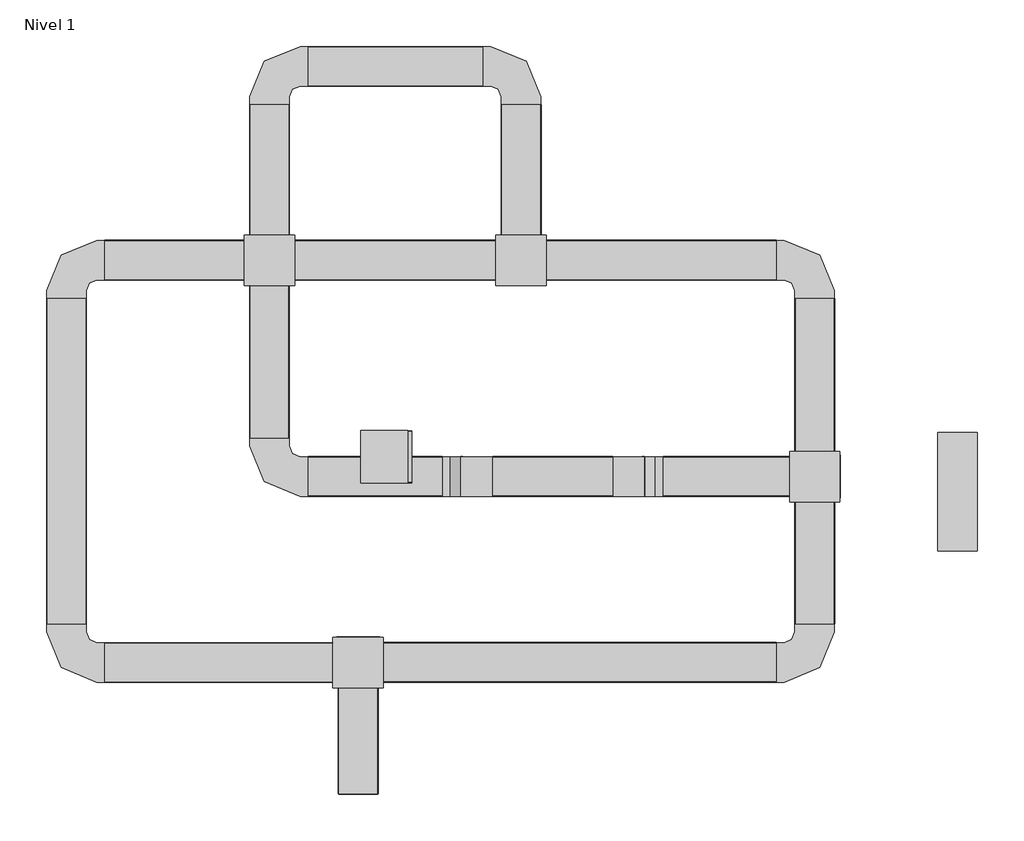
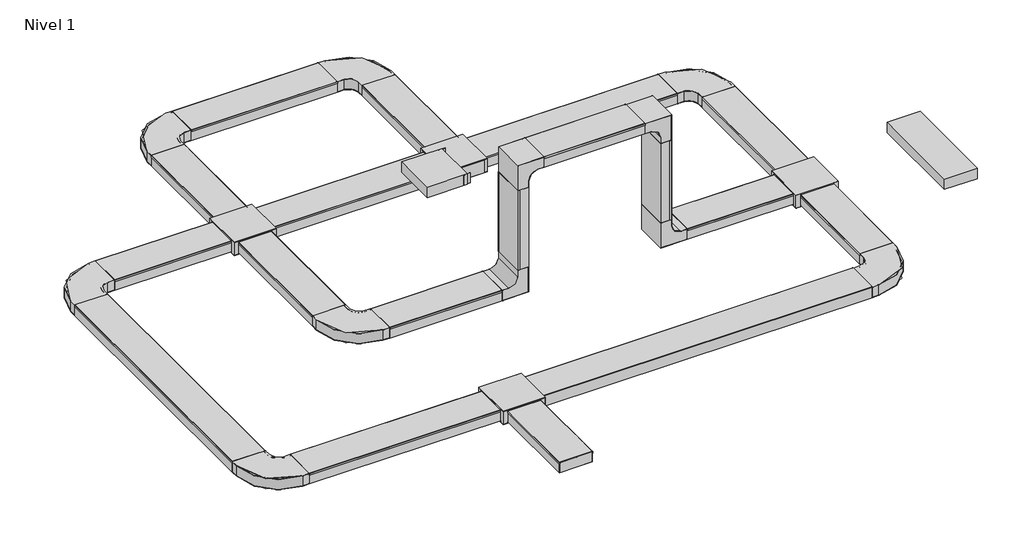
# One storey: 20 cable carrier segments, 19 proxies, 17 cable carrier fittings.
"""IFC4 building model written with IfcOpenShell, lengths in millimetres."""

from ifc_helpers import new_model, si_unit, frame, origin, place, context, project, spatial, polyline, outline, extrude, transform, mapped, element, save
from components import generic_models_5cec7ab9, generic_models_def1f499, generic_models_9c656804, generic_models_31582465, generic_models_76276167, generic_models_f54289ea, generic_models_f6557bd0, generic_models_8f2ca061, generic_models_216e3be9, generic_models_42cd256a, generic_models_762c7957, generic_models_3b93f0a4, generic_models_4485c74d, generic_models_1e959e51, generic_models_a58146f8, generic_models_6fad3b39, cable_carrier_fitting_90eee520, cable_carrier_fitting_2af98f5a, cable_carrier_fitting_345d411a, cable_carrier_fitting_2ed938b1, cable_carrier_fitting_19ecf4e0, cable_carrier_fitting_0468ddaf

model = new_model("IFC4")

# Units and contexts
model_context = context("Model", 3, world=origin())
ifc_project = project(units=[si_unit("LENGTHUNIT", "METRE", prefix="MILLI")], contexts=[model_context])

# Site, building, storey
site = spatial("IfcSite", under=ifc_project)
building = spatial("IfcBuilding", under=site)
storey = spatial("IfcBuildingStorey", under=building, Name="Nivel 1", Elevation=0.0)

# Proxies
placement = place(None, origin())
generic_models_shape = generic_models_5cec7ab9(model_context)
element("IfcBuildingElementProxy", 1, Name="Cable_Tray_FinalCover_TFCT_Basorcanal : Basorcanal TFCT 100X300", ObjectType="Cable_Tray_FinalCover_TFCT_Basorcanal : Basorcanal TFCT 100X300", at=placement, inside=storey, context=model_context, shape_type="MappedRepresentation", body=[
    mapped(generic_models_shape, transform((-9827.2766026, -3718.5763721, -198.6), x_axis=(1.0, 0.0, 0.0), y_axis=(0.0, 4.444959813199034e-05, 0.9999999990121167), z_axis=(0.0, -0.9999999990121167, 4.444959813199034e-05))),
])
generic_models_2_shape = generic_models_def1f499(model_context)
element("IfcBuildingElementProxy", 2, Name="Cable_Tray_Cover_CT_Basorcanal : Basorcanal CT 100X300 (cover)", ObjectType="Cable_Tray_Cover_CT_Basorcanal : Basorcanal CT 100X300 (cover)", at=placement, inside=storey, context=model_context, shape_type="MappedRepresentation", body=[
    mapped(generic_models_2_shape, transform((-6650.7974985, 340.5914272, -148.6017721), x_axis=(0.0, 1.0, 0.0), y_axis=(-0.9999999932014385, 0.0, 0.00011660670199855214), z_axis=(0.00011660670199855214, 0.0, 0.9999999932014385))),
])
generic_models_3_shape = generic_models_9c656804(model_context)
element("IfcBuildingElementProxy", 3, Name="Cable_Tray_Cover_CT_Basorcanal : Basorcanal CT 100X300 (cover)", ObjectType="Cable_Tray_Cover_CT_Basorcanal : Basorcanal CT 100X300 (cover)", at=placement, inside=storey, context=model_context, shape_type="MappedRepresentation", body=[
    mapped(generic_models_3_shape, transform((-8588.3511729, 532.0870332, -148.4117426), x_axis=(1.0, 0.0, 0.0), y_axis=(0.0, 0.9999999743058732, -0.0002266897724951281), z_axis=(0.0, 0.0002266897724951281, 0.9999999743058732))),
])
element("IfcBuildingElementProxy", 4, Name="Cable_Tray_Cover_CT_Basorcanal : Basorcanal CT 100X300 (cover)", ObjectType="Cable_Tray_Cover_CT_Basorcanal : Basorcanal CT 100X300 (cover)", at=placement, inside=storey, context=model_context, shape_type="MappedRepresentation", body=[
    mapped(generic_models_3_shape, transform((-10500.8906627, 532.080158, -148.5473097), x_axis=(1.0, 0.0, 0.0), y_axis=(0.0, 0.9999999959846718, -8.961393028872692e-05), z_axis=(0.0, 8.961393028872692e-05, 0.9999999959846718))),
])
generic_models_4_shape = generic_models_31582465(model_context)
element("IfcBuildingElementProxy", 5, Name="Cable_Tray_Cover_CT_Basorcanal : Basorcanal CT 100X300 (cover)", ObjectType="Cable_Tray_Cover_CT_Basorcanal : Basorcanal CT 100X300 (cover)", at=placement, inside=storey, context=model_context, shape_type="MappedRepresentation", body=[
    mapped(generic_models_4_shape, transform((-8880.3511729, 1814.0756733, -148.6359375), x_axis=(0.0, 1.0, 0.0), y_axis=(-1.0, 0.0, 0.0), z_axis=(0.0, 0.0, 1.0))),
])
generic_models_5_shape = generic_models_76276167(model_context)
element("IfcBuildingElementProxy", 6, Name="Cable_Tray_Cover_CT_Basorcanal : Basorcanal CT 100X300 (cover)", ObjectType="Cable_Tray_Cover_CT_Basorcanal : Basorcanal CT 100X300 (cover)", at=placement, inside=storey, context=model_context, shape_type="MappedRepresentation", body=[
    mapped(generic_models_5_shape, transform((-8779.8547165, 340.5914272, -148.425319), x_axis=(0.0, 1.0, 0.0), y_axis=(-0.9999999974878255, 0.0, -7.088264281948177e-05), z_axis=(-7.088264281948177e-05, 0.0, 0.9999999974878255))),
])
generic_models_6_shape = generic_models_f54289ea(model_context)
element("IfcBuildingElementProxy", 7, Name="Cable_Tray_Cover_CT_Basorcanal : Basorcanal CT 100X300 (cover)", ObjectType="Cable_Tray_Cover_CT_Basorcanal : Basorcanal CT 100X300 (cover)", at=placement, inside=storey, context=model_context, shape_type="MappedRepresentation", body=[
    mapped(generic_models_6_shape, transform((-10501.8906627, -1011.6123872, -148.6359353), x_axis=(1.0, 0.0, 0.0), y_axis=(0.0, 0.9999999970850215, 7.635415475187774e-05), z_axis=(0.0, -7.635415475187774e-05, 0.9999999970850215))),
])
element("IfcBuildingElementProxy", 8, Name="Cable_Tray_Cover_CT_Basorcanal : Basorcanal CT 100X300 (cover)", ObjectType="Cable_Tray_Cover_CT_Basorcanal : Basorcanal CT 100X300 (cover)", at=placement, inside=storey, context=model_context, shape_type="MappedRepresentation", body=[
    mapped(generic_models_6_shape, transform((-6357.8033308, 47.5914272, -148.6359375), x_axis=(-1.0, 0.0, 0.0), y_axis=(0.0, -1.0, 0.0), z_axis=(0.0, 0.0, 1.0))),
])
generic_models_7_shape = generic_models_f6557bd0(model_context)
element("IfcBuildingElementProxy", 9, Name="Cable_Tray_Cover_CT_Basorcanal : Basorcanal CT 100X300 (cover)", ObjectType="Cable_Tray_Cover_CT_Basorcanal : Basorcanal CT 100X300 (cover)", at=placement, inside=storey, context=model_context, shape_type="MappedRepresentation", body=[
    mapped(generic_models_7_shape, transform((-6549.3033308, -1304.6412884, -148.6359375), x_axis=(0.0, 1.0, 0.0), y_axis=(-1.0, 0.0, 0.0), z_axis=(0.0, 0.0, 1.0))),
])
generic_models_8_shape = generic_models_8f2ca061(model_context)
element("IfcBuildingElementProxy", 10, Name="Cable_Tray_Cover_CT_Basorcanal : Basorcanal CT 100X300 (cover)", ObjectType="Cable_Tray_Cover_CT_Basorcanal : Basorcanal CT 100X300 (cover)", at=placement, inside=storey, context=model_context, shape_type="MappedRepresentation", body=[
    mapped(generic_models_8_shape, transform((-10207.8906627, -1304.6412884, -148.6359375), x_axis=(0.0, -1.0, 0.0), y_axis=(1.0, 0.0, 0.0), z_axis=(0.0, 0.0, 1.0))),
])
generic_models_9_shape = generic_models_216e3be9(model_context)
element("IfcBuildingElementProxy", 11, Name="Cable_Tray_Cover_CT_Basorcanal : Basorcanal CT 100X300 (cover)", ObjectType="Cable_Tray_Cover_CT_Basorcanal : Basorcanal CT 100X300 (cover)", at=placement, inside=storey, context=model_context, shape_type="MappedRepresentation", body=[
    mapped(generic_models_9_shape, transform((-12044.2216592, 47.5914272, -148.6359375), x_axis=(-1.0, 0.0, 0.0), y_axis=(0.0, -1.0, 0.0), z_axis=(0.0, 0.0, 1.0))),
])
generic_models_10_shape = generic_models_42cd256a(model_context)
element("IfcBuildingElementProxy", 12, Name="Cable_Tray_Cover_CT_Basorcanal : Basorcanal CT 100X300 (cover)", ObjectType="Cable_Tray_Cover_CT_Basorcanal : Basorcanal CT 100X300 (cover)", at=placement, inside=storey, context=model_context, shape_type="MappedRepresentation", body=[
    mapped(generic_models_10_shape, transform((-9635.8033308, -2717.5763721, -148.6359375), x_axis=(0.0, -1.0, 0.0), y_axis=(1.0, 0.0, 0.0), z_axis=(0.0, 0.0, 1.0))),
])
generic_models_11_shape = generic_models_762c7957(model_context)
element("IfcBuildingElementProxy", 13, Name="Cable_Tray_Cover_CT_Basorcanal : Basorcanal CT 100X300 (cover)", ObjectType="Cable_Tray_Cover_CT_Basorcanal : Basorcanal CT 100X300 (cover)", at=placement, inside=storey, context=model_context, shape_type="MappedRepresentation", body=[
    mapped(generic_models_11_shape, transform((-11751.2216592, -2718.5763721, -148.6359375), x_axis=(0.0, -1.0, 0.0), y_axis=(1.0, 0.0, 0.0), z_axis=(0.0, 0.0, 1.0))),
])
generic_models_12_shape = generic_models_3b93f0a4(model_context)
element("IfcBuildingElementProxy", 14, Name="Cable_Tray_Cover_CT_Basorcanal : Basorcanal CT 100X300 (cover)", ObjectType="Cable_Tray_Cover_CT_Basorcanal : Basorcanal CT 100X300 (cover)", at=placement, inside=storey, context=model_context, shape_type="MappedRepresentation", body=[
    mapped(generic_models_12_shape, transform((-9827.2766029, -3718.5741489, -148.6000001), x_axis=(1.0, 0.0, 0.0), y_axis=(0.0, 0.9999999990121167, -4.444959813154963e-05), z_axis=(0.0, 4.444959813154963e-05, 0.9999999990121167))),
])
generic_models_13_shape = generic_models_4485c74d(model_context)
element("IfcBuildingElementProxy", 15, Name="Cable_Tray_Cover_CT_Basorcanal : Basorcanal CT 100X300 (cover)", ObjectType="Cable_Tray_Cover_CT_Basorcanal : Basorcanal CT 100X300 (cover)", at=placement, inside=storey, context=model_context, shape_type="MappedRepresentation", body=[
    mapped(generic_models_13_shape, transform((-10692.425206, 340.5914272, -148.5608871), x_axis=(0.0, 1.0, 0.0), y_axis=(-0.9999999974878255, 0.0, -7.088264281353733e-05), z_axis=(-7.088264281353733e-05, 0.0, 0.9999999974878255))),
])
generic_models_14_shape = generic_models_1e959e51(model_context)
element("IfcBuildingElementProxy", 16, Name="Cable_Tray_Cover_CT_Basorcanal : Basorcanal CT 100X300 (cover)", ObjectType="Cable_Tray_Cover_CT_Basorcanal : Basorcanal CT 100X300 (cover)", at=placement, inside=storey, context=model_context, shape_type="MappedRepresentation", body=[
    mapped(generic_models_14_shape, transform((-6357.8033308, -1496.1412884, -148.6359375), x_axis=(-1.0, 0.0, 0.0), y_axis=(0.0, -1.0, 0.0), z_axis=(0.0, 0.0, 1.0))),
])
generic_models_15_shape = generic_models_a58146f8(model_context)
element("IfcBuildingElementProxy", 17, Name="Cable_Tray_Cover_CT_Basorcanal : Basorcanal CT 100X300 (cover)", ObjectType="Cable_Tray_Cover_CT_Basorcanal : Basorcanal CT 100X300 (cover)", at=placement, inside=storey, context=model_context, shape_type="MappedRepresentation", body=[
    mapped(generic_models_15_shape, transform((-7652.064673, -1304.6412884, 754.5079781), x_axis=(0.0, -1.0, 0.0), y_axis=(0.0, 0.0, -1.0), z_axis=(1.0, 0.0, 0.0))),
])
element("IfcBuildingElementProxy", 18, Name="Cable_Tray_Cover_CT_Basorcanal : Basorcanal CT 100X300 (cover)", ObjectType="Cable_Tray_Cover_CT_Basorcanal : Basorcanal CT 100X300 (cover)", at=placement, inside=storey, context=model_context, shape_type="MappedRepresentation", body=[
    mapped(generic_models_15_shape, transform((-9047.464673, -1304.6412884, 754.5079781), x_axis=(0.0, 1.0, 0.0), y_axis=(0.0, 0.0, -1.0), z_axis=(-1.0, 0.0, 0.0))),
])
generic_models_16_shape = generic_models_6fad3b39(model_context)
element("IfcBuildingElementProxy", 19, Name="Cable_Tray_Cover_CT_Basorcanal : Basorcanal CT 100X300 (cover)", ObjectType="Cable_Tray_Cover_CT_Basorcanal : Basorcanal CT 100X300 (cover)", at=placement, inside=storey, context=model_context, shape_type="MappedRepresentation", body=[
    mapped(generic_models_16_shape, transform((-8805.464673, -1304.6412884, 996.5079781), x_axis=(0.0, -1.0, 0.0), y_axis=(1.0, 0.0, 0.0), z_axis=(0.0, 0.0, 1.0))),
])

# Cable carrier fittings
cable_carrier_fitting_shape = cable_carrier_fitting_90eee520(model_context)
element("IfcCableCarrierFitting", 20, ObjectType="CPT_Horizontal Bend_Basorcanal : Basorcanal CPT", at=placement, inside=storey, context=model_context, shape_type="MappedRepresentation", body=[
    mapped(cable_carrier_fitting_shape, transform((-8588.3511729, 1814.0756733, -198.6359375), x_axis=(0.0, 1.0, 0.0), y_axis=(-1.0, 0.0, 0.0), z_axis=(0.0, 0.0, 1.0))),
])
element("IfcCableCarrierFitting", 21, ObjectType="CPT_Horizontal Bend_Basorcanal : Basorcanal CPT", at=placement, inside=storey, context=model_context, shape_type="MappedRepresentation", body=[
    mapped(cable_carrier_fitting_shape, transform((-12044.2216592, -2718.5763721, -198.6359375), x_axis=(0.0, -1.0, 0.0), y_axis=(1.0, 0.0, 0.0), z_axis=(0.0, 0.0, 1.0))),
])
element("IfcCableCarrierFitting", 22, ObjectType="CPT_Horizontal Bend_Basorcanal : Basorcanal CPT", at=placement, inside=storey, context=model_context, shape_type="MappedRepresentation", body=[
    mapped(cable_carrier_fitting_shape, transform((-12044.2216592, 340.5914272, -198.6359375), x_axis=(-1.0, 0.0, 0.0), y_axis=(0.0, -1.0, 0.0), z_axis=(0.0, 0.0, 1.0))),
])
element("IfcCableCarrierFitting", 23, ObjectType="CPT_Horizontal Bend_Basorcanal : Basorcanal CPT", at=placement, inside=storey, context=model_context, shape_type="MappedRepresentation", body=[
    mapped(cable_carrier_fitting_shape, transform((-10500.8906627, 1814.0756733, -198.6359375), x_axis=(-1.0, 0.0, 0.0), y_axis=(0.0, -1.0, 0.0), z_axis=(0.0, 0.0, 1.0))),
])
element("IfcCableCarrierFitting", 24, ObjectType="CPT_Horizontal Bend_Basorcanal : Basorcanal CPT", at=placement, inside=storey, context=model_context, shape_type="MappedRepresentation", body=[
    mapped(cable_carrier_fitting_shape, transform((-10500.8906627, -1304.6412884, -198.6359375), x_axis=(0.0, -1.0, 0.0), y_axis=(1.0, 0.0, 0.0), z_axis=(0.0, 0.0, 1.0))),
])
element("IfcCableCarrierFitting", 25, ObjectType="CPT_Horizontal Bend_Basorcanal : Basorcanal CPT", at=placement, inside=storey, context=model_context, shape_type="MappedRepresentation", body=[
    mapped(cable_carrier_fitting_shape, transform((-6357.8033308, -2718.5763721, -198.6359375), x_axis=(1.0, 0.0, 0.0), y_axis=(0.0, 1.0, 0.0), z_axis=(0.0, 0.0, 1.0))),
])
element("IfcCableCarrierFitting", 26, ObjectType="CPT_Horizontal Bend_Basorcanal : Basorcanal CPT", at=placement, inside=storey, context=model_context, shape_type="MappedRepresentation", body=[
    mapped(cable_carrier_fitting_shape, transform((-6357.8033308, 340.5914272, -198.6359375), x_axis=(0.0, 1.0, 0.0), y_axis=(-0.9999999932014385, 0.0, 0.00011660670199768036), z_axis=(0.00011660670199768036, 0.0, 0.9999999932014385))),
])
cable_carrier_fitting_2_shape = cable_carrier_fitting_2af98f5a(model_context)
element("IfcCableCarrierFitting", 27, ObjectType="CCCT_Vertical_Bend-Basorcanal : Basorcanal CCCT", at=placement, inside=storey, context=model_context, shape_type="MappedRepresentation", body=[
    mapped(cable_carrier_fitting_2_shape, transform((-7702.064673, -1304.6412884, -198.6359375), x_axis=(0.0, 0.0, -1.0), y_axis=(1.0, 0.0, 0.0), z_axis=(0.0, -1.0, 0.0))),
])
element("IfcCableCarrierFitting", 28, ObjectType="CCCT_Vertical_Bend-Basorcanal : Basorcanal CCCT", at=placement, inside=storey, context=model_context, shape_type="MappedRepresentation", body=[
    mapped(cable_carrier_fitting_2_shape, transform((-8997.464673, -1304.6412884, -198.6359375), x_axis=(1.0, 0.0, 0.0), y_axis=(0.0, 0.0, 1.0), z_axis=(0.0, -1.0, 0.0))),
])
element("IfcCableCarrierFitting", 29, ObjectType="CCCT_Vertical_Bend-Basorcanal : Basorcanal CCCT", at=placement, inside=storey, context=model_context, shape_type="MappedRepresentation", body=[
    mapped(cable_carrier_fitting_2_shape, transform((-7702.064673, -1304.6412884, 946.5079781), x_axis=(0.0, 0.0, 1.0), y_axis=(-1.0, 0.0, 0.0), z_axis=(0.0, -1.0, 0.0))),
])
element("IfcCableCarrierFitting", 30, ObjectType="CCCT_Vertical_Bend-Basorcanal : Basorcanal CCCT", at=placement, inside=storey, context=model_context, shape_type="MappedRepresentation", body=[
    mapped(cable_carrier_fitting_2_shape, transform((-8997.464673, -1304.6412884, 946.5079781), x_axis=(0.0, 0.0, 1.0), y_axis=(1.0, 0.0, 0.0), z_axis=(0.0, 1.0, 0.0))),
])
cable_carrier_fitting_3_shape = cable_carrier_fitting_345d411a(model_context)
element("IfcCableCarrierFitting", 31, ObjectType="JUCT_Juction-Basorcanal : Basorcanal JUCT H100", at=placement, inside=storey, context=model_context, shape_type="MappedRepresentation", body=[
    mapped(cable_carrier_fitting_3_shape, transform((-8775.864673, -1304.6412884, 946.5079781), x_axis=(-1.0, 0.0, 0.0), y_axis=(0.0, -1.0, 0.0), z_axis=(0.0, 0.0, 1.0))),
])
cable_carrier_fitting_4_shape = cable_carrier_fitting_2ed938b1(model_context)
element("IfcCableCarrierFitting", 32, ObjectType="CDT_TE_Box Derivation_Basorcanal : Basorcanal CDT", at=placement, inside=storey, context=model_context, shape_type="MappedRepresentation", body=[
    mapped(cable_carrier_fitting_4_shape, transform((-8588.3511729, 340.5914272, -198.4117449), x_axis=(-0.9999999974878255, 0.0, -7.088264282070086e-05), y_axis=(0.0, -1.0000000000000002, 0.0), z_axis=(-7.088264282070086e-05, 0.0, 0.9999999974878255))),
])
element("IfcCableCarrierFitting", 33, ObjectType="CDT_TE_Box Derivation_Basorcanal : Basorcanal CDT", at=placement, inside=storey, context=model_context, shape_type="MappedRepresentation", body=[
    mapped(cable_carrier_fitting_4_shape, transform((-6357.8033308, -1304.6412884, -198.6359375), x_axis=(0.0, -1.0, 0.0), y_axis=(1.0, 0.0, 0.0), z_axis=(0.0, 0.0, 1.0))),
])
element("IfcCableCarrierFitting", 34, ObjectType="CDT_TE_Box Derivation_Basorcanal : Basorcanal CDT", at=placement, inside=storey, context=model_context, shape_type="MappedRepresentation", body=[
    mapped(cable_carrier_fitting_4_shape, transform((-9827.2766027, -2718.5763721, -198.6359375), x_axis=(1.0, 0.0, 0.0), y_axis=(0.0, 1.0, 0.0), z_axis=(0.0, 0.0, 1.0))),
])
cable_carrier_fitting_5_shape = cable_carrier_fitting_19ecf4e0(model_context)
element("IfcCableCarrierFitting", 35, ObjectType="CDT_CR_Box Derivation_Basorcanal : Basorcanal CDT", at=placement, inside=storey, context=model_context, shape_type="MappedRepresentation", body=[
    mapped(cable_carrier_fitting_5_shape, transform((-10500.8906627, 340.5914272, -198.5473107), x_axis=(0.9999999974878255, 0.0, 7.088264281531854e-05), y_axis=(0.0, 1.0000000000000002, 0.0), z_axis=(-7.088264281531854e-05, 0.0, 0.9999999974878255))),
])
cable_carrier_fitting_6_shape = cable_carrier_fitting_0468ddaf(model_context)
element("IfcCableCarrierFitting", 36, ObjectType="JUCT_Juction-Basorcanal : Basorcanal JUCT H100", at=placement, inside=storey, context=model_context, shape_type="MappedRepresentation", body=[
    mapped(cable_carrier_fitting_6_shape, transform((-9418.3794731, -1154.6412884, 946.5079781), x_axis=(-1.0, 0.0, 0.0), y_axis=(0.0, -1.0, 0.0), z_axis=(0.0, 0.0, 1.0))),
])

# Cable carrier segments
element("IfcCableCarrierSegment", 37, ObjectType="Basorcanal CT", at=placement, inside=storey, context=model_context, shape_type="SweptSolid", body=[
    extrude(outline(polyline([(-11894.2216592, -2425.5763721), (-12194.2216592, -2425.5763721), (-12194.2216592, 47.5914272), (-11894.2216592, 47.5914272), (-11894.2216592, -2425.5763721)])), frame((0.0, 0.0, -248.6359375), z_axis=(0.0, 0.0, 1.0), x_axis=(1.0, 0.0, 0.0)), (0.0, 0.0, 1.0), 100.0),
])
element("IfcCableCarrierSegment", 38, ObjectType="Basorcanal CT", at=placement, inside=storey, context=model_context, shape_type="SweptSolid", body=[
    extrude(outline(polyline([(-6207.8033308, -1113.1412884), (-6507.8033308, -1113.1412884), (-6507.8033308, 47.5914272), (-6207.8033308, 47.5914272), (-6207.8033308, -1113.1412884)])), frame((0.0, 0.0, -248.6359375), z_axis=(0.0, 0.0, 1.0), x_axis=(1.0, 0.0, 0.0)), (0.0, 0.0, 1.0), 100.0),
])
element("IfcCableCarrierSegment", 39, ObjectType="Basorcanal CT", at=placement, inside=storey, context=model_context, shape_type="SweptSolid", body=[
    extrude(outline(polyline([(0.0, -299.9999991), (0.0, 0.0), (1160.732719, 0.0), (1160.732719, -299.9999991), (0.0, -299.9999991)])), frame((-10350.8906632, 149.0952449, -248.5473104), z_axis=(0.0, -7.635415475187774e-05, 0.9999999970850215), x_axis=(0.0, -0.9999999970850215, -7.635415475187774e-05)), (0.0, 0.0, 1.0), 99.9999997),
])
element("IfcCableCarrierSegment", 40, ObjectType="Basorcanal CT", at=placement, inside=storey, context=model_context, shape_type="SweptSolid", body=[
    extrude(outline(polyline([(-10207.8906627, 1664.0756733), (-10207.8906627, 1964.0756733), (-8881.3511729, 1964.0756733), (-8881.3511729, 1664.0756733), (-10207.8906627, 1664.0756733)])), frame((0.0, 0.0, -248.6359375), z_axis=(0.0, 0.0, 1.0), x_axis=(1.0, 0.0, 0.0)), (0.0, 0.0, 1.0), 100.0),
])
element("IfcCableCarrierSegment", 41, ObjectType="Basorcanal CT", at=placement, inside=storey, context=model_context, shape_type="SweptSolid", body=[
    extrude(outline(polyline([(0.0, -300.0), (0.0, 0.0), (988.9842715, 0.0), (988.9842715, -300.0), (0.0, -300.0)])), frame((-8438.3511729, 1521.0643388, -248.6359362), z_axis=(0.0, 0.00022668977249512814, 0.9999999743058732), x_axis=(0.0, -0.9999999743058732, 0.00022668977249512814)), (0.0, 0.0, 1.0), 100.0),
])
element("IfcCableCarrierSegment", 42, ObjectType="Basorcanal CT", at=placement, inside=storey, context=model_context, shape_type="SweptSolid", body=[
    extrude(outline(polyline([(-8947.464673, -1454.6412884), (-9047.464673, -1454.6412884), (-9047.464673, -1154.6412884), (-8947.464673, -1154.6412884), (-8947.464673, -1454.6412884)])), frame((0.0, 0.0, -6.6359375), z_axis=(0.0, 0.0, 1.0), x_axis=(1.0, 0.0, 0.0)), (0.0, 0.0, 1.0), 761.1439156),
])
element("IfcCableCarrierSegment", 43, ObjectType="Basorcanal CT", at=placement, inside=storey, context=model_context, shape_type="SweptSolid", body=[
    extrude(outline(polyline([(-7510.064673, -1454.6412884), (-7510.064673, -1154.6412884), (-6549.3033308, -1154.6412884), (-6549.3033308, -1454.6412884), (-7510.064673, -1454.6412884)])), frame((0.0, 0.0, -248.6359375), z_axis=(0.0, 0.0, 1.0), x_axis=(1.0, 0.0, 0.0)), (0.0, 0.0, 1.0), 100.0),
])
element("IfcCableCarrierSegment", 44, ObjectType="Basorcanal CT", at=placement, inside=storey, context=model_context, shape_type="SweptSolid", body=[
    extrude(outline(polyline([(-10018.7766027, -2568.5763721), (-10018.7766027, -2868.5763721), (-11751.2216592, -2868.5763721), (-11751.2216592, -2568.5763721), (-10018.7766027, -2568.5763721)])), frame((0.0, 0.0, -248.6359375), z_axis=(0.0, 0.0, 1.0), x_axis=(1.0, 0.0, 0.0)), (0.0, 0.0, 1.0), 100.0),
])
element("IfcCableCarrierSegment", 45, ObjectType="Basorcanal CT", at=placement, inside=storey, context=model_context, shape_type="SweptSolid", body=[
    extrude(outline(polyline([(0.0, -300.0), (0.0, 0.0), (1746.0478564, 0.0), (1746.0478564, -300.0), (0.0, -300.0)])), frame((-8396.8570037, 490.5914272, -248.3981705), z_axis=(0.00011660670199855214, 0.0, 0.9999999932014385), x_axis=(0.9999999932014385, 0.0, -0.00011660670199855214)), (0.0, 0.0, 1.0), 100.0),
])
element("IfcCableCarrierSegment", 46, ObjectType="Basorcanal CT", at=placement, inside=storey, context=model_context, shape_type="SweptSolid", body=[
    extrude(outline(polyline([(0.0, -300.0), (0.0, 0.0), (1058.8309997, 0.0), (1058.8309997, -300.0), (0.0, -300.0)])), frame((-11751.2181151, 490.5914272, -248.6359374), z_axis=(-7.088264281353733e-05, 0.0, 0.9999999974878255), x_axis=(0.9999999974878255, 0.0, 7.088264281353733e-05)), (0.0, 0.0, 1.0), 100.0),
])
element("IfcCableCarrierSegment", 47, ObjectType="Basorcanal CT", at=placement, inside=storey, context=model_context, shape_type="SweptSolid", body=[
    extrude(outline(polyline([(0.0, -299.9999988), (0.0, 0.0), (988.9842501, 0.0), (988.9842501, -299.9999988), (0.0, -299.9999988)])), frame((-10350.8906633, 1521.0711926, -248.6359371), z_axis=(0.0, 8.961393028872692e-05, 0.9999999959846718), x_axis=(0.0, -0.9999999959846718, 8.961393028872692e-05)), (0.0, 0.0, 1.0), 99.9999996),
])
element("IfcCableCarrierSegment", 48, ObjectType="Basorcanal CT", at=placement, inside=storey, context=model_context, shape_type="SweptSolid", body=[
    extrude(outline(polyline([(0.0, -300.0), (0.0, 0.0), (1529.5394946, 0.0), (1529.5394946, -300.0), (0.0, -300.0)])), frame((-10309.3871191, 490.5914272, -248.5337366), z_axis=(-7.088264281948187e-05, 0.0, 0.9999999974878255), x_axis=(0.9999999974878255, 0.0, 7.088264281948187e-05)), (0.0, 0.0, 1.0), 100.0),
])
element("IfcCableCarrierSegment", 49, ObjectType="Basorcanal CT", at=placement, inside=storey, context=model_context, shape_type="SweptSolid", body=[
    extrude(outline(polyline([(-6207.8033308, -2425.5763721), (-6507.8033308, -2425.5763721), (-6507.8033308, -1496.1412884), (-6207.8033308, -1496.1412884), (-6207.8033308, -2425.5763721)])), frame((0.0, 0.0, -248.6359375), z_axis=(0.0, 0.0, 1.0), x_axis=(1.0, 0.0, 0.0)), (0.0, 0.0, 1.0), 100.0),
])
element("IfcCableCarrierSegment", 50, ObjectType="Basorcanal CT", at=placement, inside=storey, context=model_context, shape_type="SweptSolid", body=[
    extrude(outline(polyline([(0.0, -299.9999997), (0.0, 0.0), (808.5000008, 0.0), (808.5000008, -299.9999997), (0.0, -299.9999997)])), frame((-9677.2766029, -2910.0785946, -248.6359374), z_axis=(0.0, 4.444959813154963e-05, 0.9999999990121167), x_axis=(0.0, -0.9999999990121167, 4.444959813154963e-05)), (0.0, 0.0, 1.0), 99.9999999),
])
element("IfcCableCarrierSegment", 51, ObjectType="Basorcanal CT", at=placement, inside=storey, context=model_context, shape_type="SweptSolid", body=[
    extrude(outline(polyline([(-6650.8033308, -2568.5763721), (-6650.8033308, -2868.5763721), (-9635.7766027, -2868.5763721), (-9635.7766027, -2568.5763721), (-6650.8033308, -2568.5763721)])), frame((0.0, 0.0, -248.6359375), z_axis=(0.0, 0.0, 1.0), x_axis=(1.0, 0.0, 0.0)), (0.0, 0.0, 1.0), 100.0),
])
element("IfcCableCarrierSegment", 52, ObjectType="Basorcanal CT", at=placement, inside=storey, context=model_context, shape_type="SweptSolid", body=[
    extrude(outline(polyline([(-9189.464673, -1154.6412884), (-9189.464673, -1454.6412884), (-10207.8906627, -1454.6412884), (-10207.8906627, -1154.6412884), (-9189.464673, -1154.6412884)])), frame((0.0, 0.0, -248.6359375), z_axis=(0.0, 0.0, 1.0), x_axis=(1.0, 0.0, 0.0)), (0.0, 0.0, 1.0), 100.0),
])
element("IfcCableCarrierSegment", 53, ObjectType="Basorcanal CT", at=placement, inside=storey, context=model_context, shape_type="SweptSolid", body=[
    extrude(outline(polyline([(-7894.064673, -1154.6412884), (-7894.064673, -1454.6412884), (-8805.464673, -1454.6412884), (-8805.464673, -1154.6412884), (-7894.064673, -1154.6412884)])), frame((0.0, 0.0, 896.5079781), z_axis=(0.0, 0.0, 1.0), x_axis=(1.0, 0.0, 0.0)), (0.0, 0.0, 1.0), 100.0),
])
element("IfcCableCarrierSegment", 54, ObjectType="Basorcanal CT", at=placement, inside=storey, context=model_context, shape_type="SweptSolid", body=[
    extrude(outline(polyline([(-7752.064673, -1154.6412884), (-7652.064673, -1154.6412884), (-7652.064673, -1454.6412884), (-7752.064673, -1454.6412884), (-7752.064673, -1154.6412884)])), frame((0.0, 0.0, -6.6359375), z_axis=(0.0, 0.0, 1.0), x_axis=(1.0, 0.0, 0.0)), (0.0, 0.0, 1.0), 761.1439156),
])
element("IfcCableCarrierSegment", 55, ObjectType="Bandeja de cables de mallazo electrosoldado", at=placement, inside=storey, context=model_context, shape_type="SweptSolid", body=[
    extrude(outline(polyline([(0.0, -399.9999999), (0.0, 0.0), (360.0000001, 0.0), (360.0000001, -399.9999999), (0.0, -399.9999999)])), frame((-9448.7783651, -1354.6412883, 896.5079781), z_axis=(-2.216143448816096e-05, 0.0, 0.9999999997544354), x_axis=(-0.9999999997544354, 0.0, -2.216143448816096e-05)), (0.0, 0.0, 1.0), 100.0),
])
element("IfcCableCarrierSegment", 56, ObjectType="Basorcanal CT", at=placement, inside=storey, context=model_context, shape_type="SweptSolid", body=[
    extrude(outline(polyline([(-5121.1976483, -1871.4722961), (-5421.1976483, -1871.4722961), (-5421.1976483, -971.4722961), (-5121.1976483, -971.4722961), (-5121.1976483, -1871.4722961)])), frame((0.0, 0.0, -248.6), z_axis=(0.0, 0.0, 1.0), x_axis=(1.0, 0.0, 0.0)), (0.0, 0.0, 1.0), 100.0),
])

save(model, "model.ifc")
